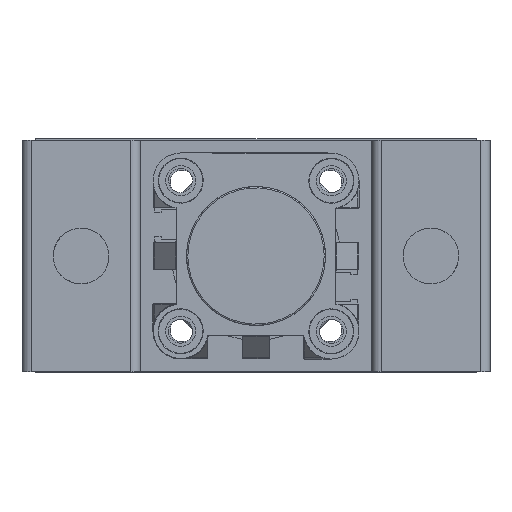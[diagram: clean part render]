
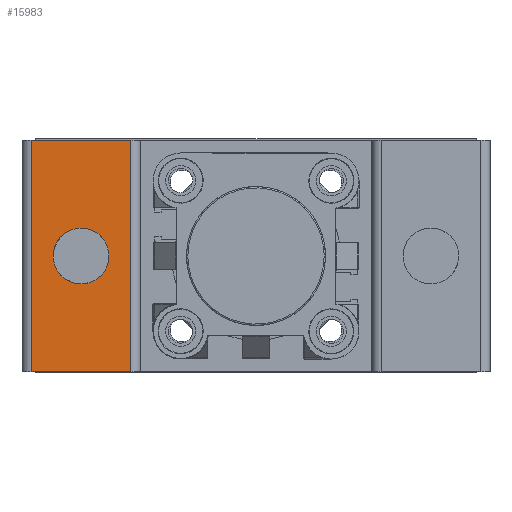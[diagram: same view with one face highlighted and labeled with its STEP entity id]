
A CAD part, front view. The second image highlights one B-rep face of the part: STEP entity #15983.
In plain terms, the highlighted planar face has unit normal (0, -1, 0).
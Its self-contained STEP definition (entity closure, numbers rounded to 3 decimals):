
#1344 = ORIENTED_EDGE ( 'NONE', *, *, #38680, .T. ) ;
#2371 = DIRECTION ( 'NONE',  ( 0., 0., -1. ) ) ;
#2764 = ORIENTED_EDGE ( 'NONE', *, *, #26657, .T. ) ;
#3166 = CARTESIAN_POINT ( 'NONE',  ( 12.75, -115., 31. ) ) ;
#4086 = DIRECTION ( 'NONE',  ( 0., 0., -1. ) ) ;
#4114 = EDGE_CURVE ( 'NONE', #20322, #30830, #12797, .T. ) ;
#4303 = CARTESIAN_POINT ( 'NONE',  ( 2., -115., 50. ) ) ;
#4468 = VERTEX_POINT ( 'NONE', #10098 ) ;
#5851 = EDGE_CURVE ( 'NONE', #19699, #15491, #34244, .T. ) ;
#6576 = CARTESIAN_POINT ( 'NONE',  ( 12.75, -115., 25. ) ) ;
#7282 = CIRCLE ( 'NONE', #24720, 6. ) ;
#7516 = DIRECTION ( 'NONE',  ( 0., 0., -1. ) ) ;
#7829 = VECTOR ( 'NONE', #7516, 1000. ) ;
#8331 = AXIS2_PLACEMENT_3D ( 'NONE', #26270, #23199, #4086 ) ;
#9085 = FACE_OUTER_BOUND ( 'NONE', #39309, .T. ) ;
#9769 = DIRECTION ( 'NONE',  ( 0., 0., -1. ) ) ;
#10098 = CARTESIAN_POINT ( 'NONE',  ( 2., -115., 50. ) ) ;
#10868 = CARTESIAN_POINT ( 'NONE',  ( 2., -115., 0. ) ) ;
#12797 = LINE ( 'NONE', #26744, #30845 ) ;
#12958 = DIRECTION ( 'NONE',  ( -1., 0., 0. ) ) ;
#13990 = VECTOR ( 'NONE', #12958, 1000. ) ;
#14123 = ORIENTED_EDGE ( 'NONE', *, *, #26243, .F. ) ;
#14358 = CARTESIAN_POINT ( 'NONE',  ( 12.75, -115., 19. ) ) ;
#14387 = DIRECTION ( 'NONE',  ( -1., 0., 0. ) ) ;
#14847 = ORIENTED_EDGE ( 'NONE', *, *, #5851, .F. ) ;
#15491 = VERTEX_POINT ( 'NONE', #14358 ) ;
#15983 = ADVANCED_FACE ( 'NONE', ( #25083, #9085 ), #16778, .T. ) ;
#16778 = PLANE ( 'NONE',  #8331 ) ;
#16854 = VECTOR ( 'NONE', #14387, 1000. ) ;
#17459 = CARTESIAN_POINT ( 'NONE',  ( 23.5, -115., 0. ) ) ;
#18342 = LINE ( 'NONE', #4303, #7829 ) ;
#19699 = VERTEX_POINT ( 'NONE', #3166 ) ;
#20322 = VERTEX_POINT ( 'NONE', #36213 ) ;
#21457 = VERTEX_POINT ( 'NONE', #10868 ) ;
#21478 = DIRECTION ( 'NONE',  ( 0., -1., 0. ) ) ;
#22373 = ORIENTED_EDGE ( 'NONE', *, *, #28980, .F. ) ;
#22494 = LINE ( 'NONE', #35200, #13990 ) ;
#23199 = DIRECTION ( 'NONE',  ( 0., -1., 0. ) ) ;
#24720 = AXIS2_PLACEMENT_3D ( 'NONE', #40670, #21478, #2371 ) ;
#25083 = FACE_BOUND ( 'NONE', #27335, .T. ) ;
#25373 = LINE ( 'NONE', #26824, #16854 ) ;
#26243 = EDGE_CURVE ( 'NONE', #30830, #21457, #25373, .T. ) ;
#26270 = CARTESIAN_POINT ( 'NONE',  ( 0., -115., 50. ) ) ;
#26657 = EDGE_CURVE ( 'NONE', #4468, #21457, #18342, .T. ) ;
#26744 = CARTESIAN_POINT ( 'NONE',  ( 23.5, -115., 50. ) ) ;
#26824 = CARTESIAN_POINT ( 'NONE',  ( 0., -115., 0. ) ) ;
#27335 = EDGE_LOOP ( 'NONE', ( #14847, #22373 ) ) ;
#27850 = ORIENTED_EDGE ( 'NONE', *, *, #4114, .F. ) ;
#28978 = DIRECTION ( 'NONE',  ( 0., -1., 0. ) ) ;
#28980 = EDGE_CURVE ( 'NONE', #15491, #19699, #7282, .T. ) ;
#30830 = VERTEX_POINT ( 'NONE', #17459 ) ;
#30845 = VECTOR ( 'NONE', #39645, 1000. ) ;
#34244 = CIRCLE ( 'NONE', #34767, 6. ) ;
#34767 = AXIS2_PLACEMENT_3D ( 'NONE', #6576, #28978, #9769 ) ;
#35200 = CARTESIAN_POINT ( 'NONE',  ( 0., -115., 50. ) ) ;
#36213 = CARTESIAN_POINT ( 'NONE',  ( 23.5, -115., 50. ) ) ;
#38680 = EDGE_CURVE ( 'NONE', #20322, #4468, #22494, .T. ) ;
#39309 = EDGE_LOOP ( 'NONE', ( #14123, #27850, #1344, #2764 ) ) ;
#39645 = DIRECTION ( 'NONE',  ( 0., 0., -1. ) ) ;
#40670 = CARTESIAN_POINT ( 'NONE',  ( 12.75, -115., 25. ) ) ;
